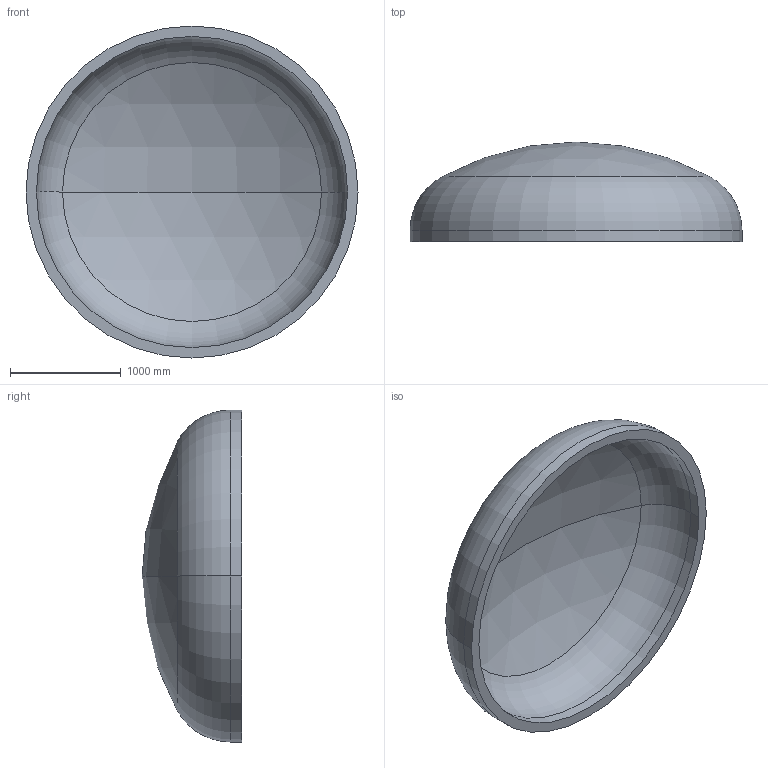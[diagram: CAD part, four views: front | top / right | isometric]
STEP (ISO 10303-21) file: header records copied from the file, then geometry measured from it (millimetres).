
FILE_DESCRIPTION (( 'STEP AP203' ), '1' );
FILE_NAME ('DIN 28013 Korbbogenform_-_Boden DIN 28013 - 3000 x 100 - I - s=94.step', '2016-07-01T18:05:08', ( '' ), ( '' ), 'SwSTEP 2.0', 'SolidWorks 2013', '' );
FILE_SCHEMA (( 'CONFIG_CONTROL_DESIGN' ));
Length unit declared in the file: millimetre
Products named in the file (1): DIN 28013 Korbbogenform_-_Boden DIN 28013 - 3000 x 100 - I - s=94
Bounding box: 3000 x 900.28 x 3000 mm (x, y, z)
Volume: 968427656.3 mm3; surface area: 21481513.1 mm2
Topology: 1 solids, 1 shells, 13 faces, 24 edges, 14 vertices
Faces by surface type: torus 4, cylinder 4, sphere 4, plane 1
Entity records: 407 total; most frequent: DIRECTION 72, CARTESIAN_POINT 52, ORIENTED_EDGE 48, AXIS2_PLACEMENT_3D 34, EDGE_CURVE 24, CIRCLE 20, VERTEX_POINT 14, EDGE_LOOP 14
